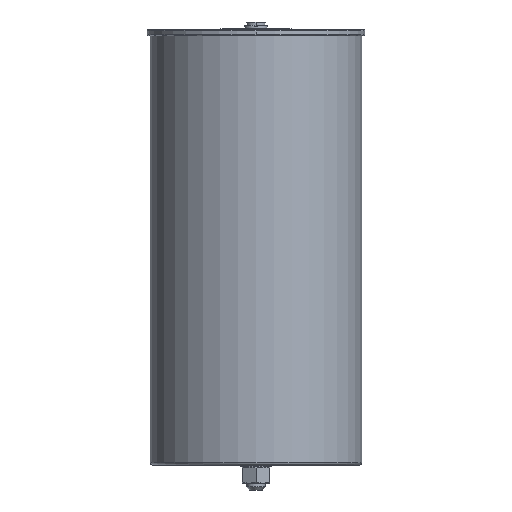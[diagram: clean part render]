
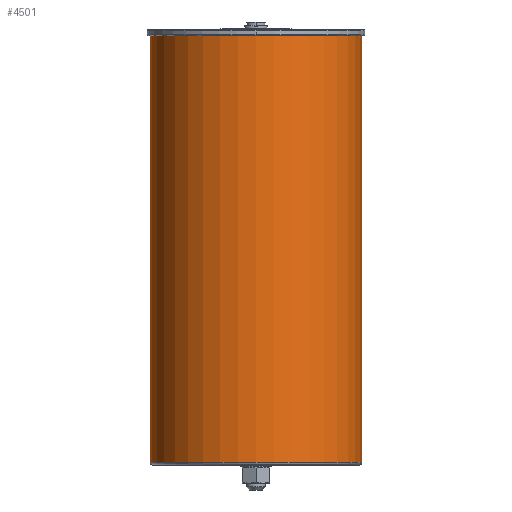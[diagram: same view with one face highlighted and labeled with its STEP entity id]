
A CAD part, left-side view. The second image highlights one B-rep face of the part: STEP entity #4501.
In plain terms, the highlighted cylindrical face has radius 68 mm (diameter 136 mm), a partial arc.
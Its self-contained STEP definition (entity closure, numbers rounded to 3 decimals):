
#879 = CARTESIAN_POINT ( 'NONE',  ( 0., -68., -274. ) ) ;
#909 = CIRCLE ( 'NONE', #10776, 68. ) ;
#936 = DIRECTION ( 'NONE',  ( 0., -1., 0. ) ) ;
#989 = FACE_OUTER_BOUND ( 'NONE', #5872, .T. ) ;
#1596 = LINE ( 'NONE', #12812, #8935 ) ;
#2861 = ORIENTED_EDGE ( 'NONE', *, *, #9325, .T. ) ;
#3371 = EDGE_CURVE ( 'NONE', #8342, #9448, #14178, .T. ) ;
#3698 = CARTESIAN_POINT ( 'NONE',  ( 0., 68., 0.9 ) ) ;
#4501 = ADVANCED_FACE ( 'NONE', ( #989 ), #12270, .T. ) ;
#4876 = VERTEX_POINT ( 'NONE', #11850 ) ;
#5824 = CARTESIAN_POINT ( 'NONE',  ( 0., 0., 0.9 ) ) ;
#5872 = EDGE_LOOP ( 'NONE', ( #11277, #9678, #2861, #12390, #11316 ) ) ;
#6061 = DIRECTION ( 'NONE',  ( 0., -1., 0. ) ) ;
#6407 = CARTESIAN_POINT ( 'NONE',  ( 0., 0., -276. ) ) ;
#6590 = DIRECTION ( 'NONE',  ( 0., 0., -1. ) ) ;
#6713 = CIRCLE ( 'NONE', #13218, 68. ) ;
#6800 = CARTESIAN_POINT ( 'NONE',  ( -68., 0., 0.9 ) ) ;
#7493 = VECTOR ( 'NONE', #6590, 1000. ) ;
#7725 = VERTEX_POINT ( 'NONE', #879 ) ;
#7971 = EDGE_CURVE ( 'NONE', #4876, #7725, #1596, .T. ) ;
#8015 = DIRECTION ( 'NONE',  ( 0., 0., -1. ) ) ;
#8342 = VERTEX_POINT ( 'NONE', #3698 ) ;
#8415 = DIRECTION ( 'NONE',  ( 0., 0., -1. ) ) ;
#8935 = VECTOR ( 'NONE', #8415, 1000. ) ;
#9072 = AXIS2_PLACEMENT_3D ( 'NONE', #6407, #11869, #936 ) ;
#9127 = EDGE_CURVE ( 'NONE', #13134, #8342, #6713, .T. ) ;
#9325 = EDGE_CURVE ( 'NONE', #9448, #7725, #13028, .T. ) ;
#9448 = VERTEX_POINT ( 'NONE', #12902 ) ;
#9678 = ORIENTED_EDGE ( 'NONE', *, *, #3371, .T. ) ;
#10279 = AXIS2_PLACEMENT_3D ( 'NONE', #11569, #12626, #6061 ) ;
#10776 = AXIS2_PLACEMENT_3D ( 'NONE', #13346, #12244, #11185 ) ;
#11185 = DIRECTION ( 'NONE',  ( 0., 1., 0. ) ) ;
#11277 = ORIENTED_EDGE ( 'NONE', *, *, #9127, .T. ) ;
#11316 = ORIENTED_EDGE ( 'NONE', *, *, #13186, .T. ) ;
#11569 = CARTESIAN_POINT ( 'NONE',  ( 0., 0., -274. ) ) ;
#11850 = CARTESIAN_POINT ( 'NONE',  ( 0., -68., 0.9 ) ) ;
#11869 = DIRECTION ( 'NONE',  ( 0., 0., -1. ) ) ;
#12181 = CARTESIAN_POINT ( 'NONE',  ( 0., 68., -276. ) ) ;
#12244 = DIRECTION ( 'NONE',  ( 0., 0., -1. ) ) ;
#12270 = CYLINDRICAL_SURFACE ( 'NONE', #9072, 68. ) ;
#12390 = ORIENTED_EDGE ( 'NONE', *, *, #7971, .F. ) ;
#12626 = DIRECTION ( 'NONE',  ( 0., 0., 1. ) ) ;
#12812 = CARTESIAN_POINT ( 'NONE',  ( 0., -68., -276. ) ) ;
#12902 = CARTESIAN_POINT ( 'NONE',  ( 0., 68., -274. ) ) ;
#13028 = CIRCLE ( 'NONE', #10279, 68. ) ;
#13134 = VERTEX_POINT ( 'NONE', #6800 ) ;
#13186 = EDGE_CURVE ( 'NONE', #4876, #13134, #909, .T. ) ;
#13218 = AXIS2_PLACEMENT_3D ( 'NONE', #5824, #8015, #13406 ) ;
#13346 = CARTESIAN_POINT ( 'NONE',  ( 0., 0., 0.9 ) ) ;
#13406 = DIRECTION ( 'NONE',  ( 0., 1., 0. ) ) ;
#14178 = LINE ( 'NONE', #12181, #7493 ) ;
